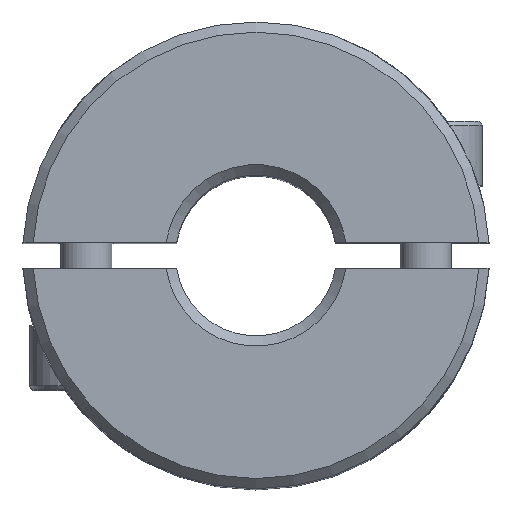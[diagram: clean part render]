
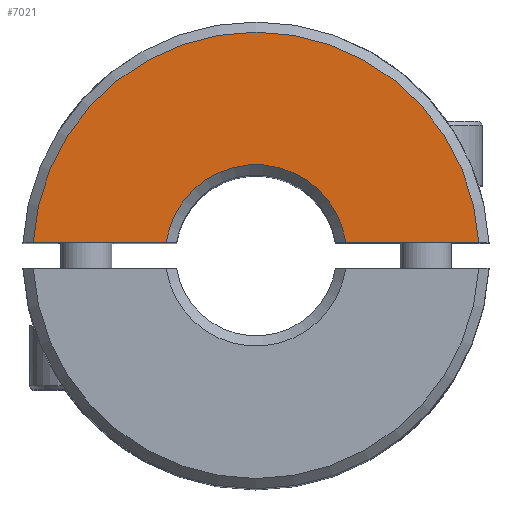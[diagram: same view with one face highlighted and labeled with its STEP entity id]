
A CAD part, top view. The second image highlights one B-rep face of the part: STEP entity #7021.
In plain terms, the highlighted planar face has unit normal (0, 0, 1).
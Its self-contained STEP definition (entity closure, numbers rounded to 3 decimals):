
#5158=DIRECTION('',(-1.,0.,0.));
#5159=VECTOR('',#5158,8.263);
#5160=CARTESIAN_POINT('',(13.842,0.794,22.5));
#5161=LINE('',#5160,#5159);
#5177=CARTESIAN_POINT('',(0.,0.,22.5));
#5178=DIRECTION('',(0.,0.,-1.));
#5179=DIRECTION('',(-0.99,0.141,0.));
#5180=AXIS2_PLACEMENT_3D('',#5177,#5178,#5179);
#5200=DIRECTION('',(-1.,0.,0.));
#5201=VECTOR('',#5200,8.263);
#5202=CARTESIAN_POINT('',(-5.579,0.794,22.5));
#5203=LINE('',#5202,#5201);
#5204=CARTESIAN_POINT('',(-5.579,0.794,22.5));
#5265=CARTESIAN_POINT('',(0.,0.,22.5));
#5266=DIRECTION('',(0.,0.,1.));
#5267=DIRECTION('',(0.998,0.057,0.));
#5268=AXIS2_PLACEMENT_3D('',#5265,#5266,#5267);
#6269=CARTESIAN_POINT('',(13.842,0.794,22.5));
#6270=CARTESIAN_POINT('',(5.579,0.794,22.5));
#6271=VERTEX_POINT('',#6269);
#6272=VERTEX_POINT('',#6270);
#6281=VERTEX_POINT('',#5204);
#6286=CARTESIAN_POINT('',(-13.842,0.794,22.5));
#6287=VERTEX_POINT('',#6286);
#7010=CARTESIAN_POINT('',(0.,0.,22.5));
#7011=DIRECTION('',(0.,0.,1.));
#7012=DIRECTION('',(1.,0.,0.));
#7013=AXIS2_PLACEMENT_3D('',#7010,#7011,#7012);
#7014=PLANE('',#7013);
#7015=ORIENTED_EDGE('',*,*,#6866,.F.);
#7016=ORIENTED_EDGE('',*,*,#6893,.T.);
#7017=ORIENTED_EDGE('',*,*,#6997,.F.);
#7018=ORIENTED_EDGE('',*,*,#6831,.T.);
#7019=EDGE_LOOP('',(#7015,#7016,#7017,#7018));
#7020=FACE_OUTER_BOUND('',#7019,.F.);
#5181=CIRCLE('',#5180,5.635);
#5269=CIRCLE('',#5268,13.865);
#6831=EDGE_CURVE('',#6271,#6272,#5161,.T.);
#6866=EDGE_CURVE('',#6281,#6272,#5181,.T.);
#6893=EDGE_CURVE('',#6281,#6287,#5203,.T.);
#6997=EDGE_CURVE('',#6271,#6287,#5269,.T.);
#7021=ADVANCED_FACE('',(#7020),#7014,.T.);
